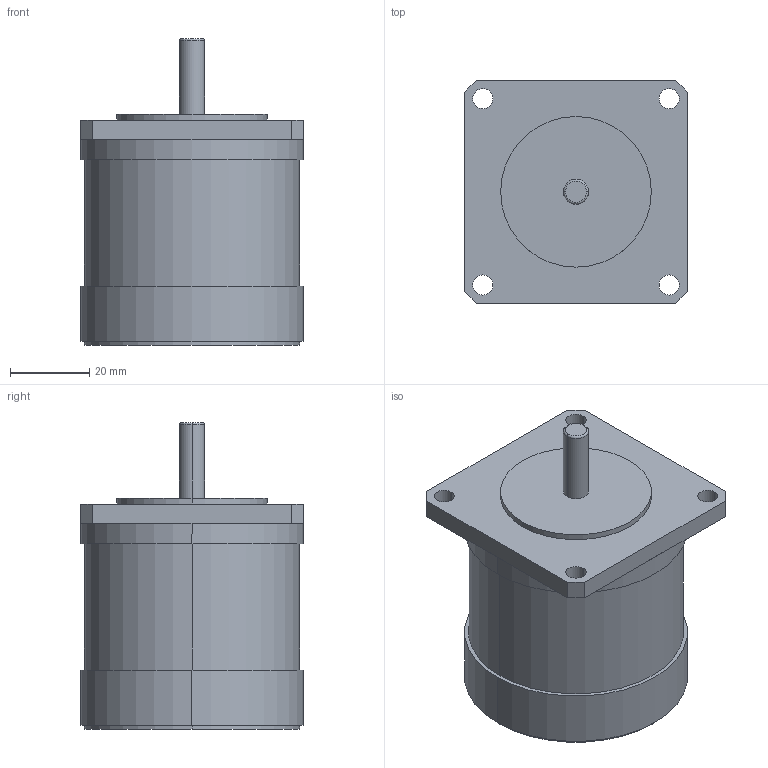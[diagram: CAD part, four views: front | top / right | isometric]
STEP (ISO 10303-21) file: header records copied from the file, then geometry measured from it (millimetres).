
FILE_DESCRIPTION (( 'STEP AP214' ), '1' );
FILE_NAME ('TS3103N40.STEP', '2016-09-08T08:54:46', ( 'hoho' ), ( '' ), 'SwSTEP 2.0', 'SolidWorks 2013', '' );
FILE_SCHEMA (( 'AUTOMOTIVE_DESIGN' ));
Length unit declared in the file: millimetre
Products named in the file (1): TS3103N40
Bounding box: 56.4 x 56.4 x 77.6 mm (x, y, z)
Volume: 141793.4 mm3; surface area: 17468.5 mm2
Topology: 1 solids, 1 shells, 41 faces, 94 edges, 60 vertices
Faces by surface type: cylinder 20, plane 19, torus 2
Entity records: 1242 total; most frequent: DIRECTION 224, CARTESIAN_POINT 196, ORIENTED_EDGE 188, EDGE_CURVE 94, AXIS2_PLACEMENT_3D 88, VERTEX_POINT 60, EDGE_LOOP 54, VECTOR 48
